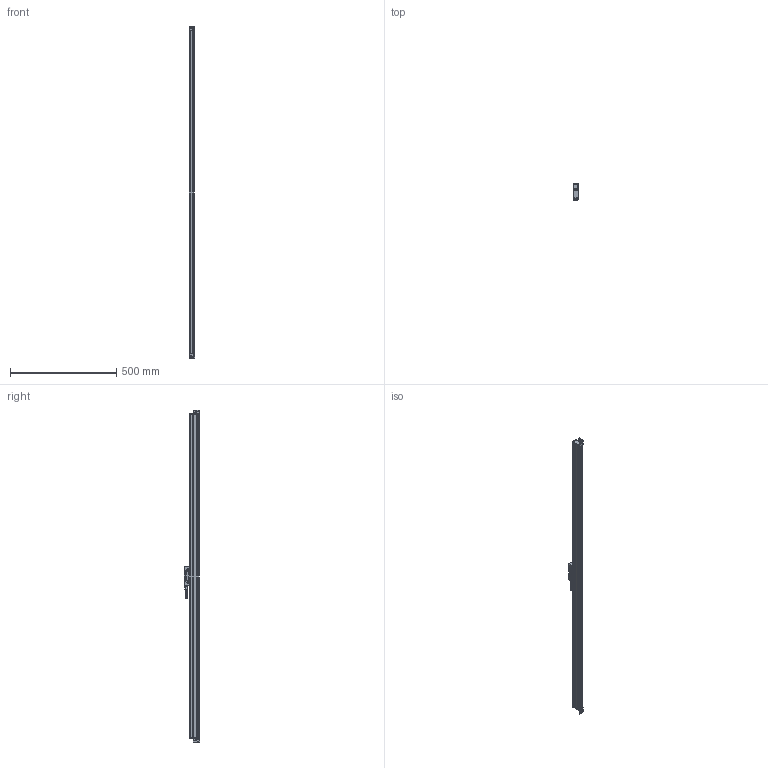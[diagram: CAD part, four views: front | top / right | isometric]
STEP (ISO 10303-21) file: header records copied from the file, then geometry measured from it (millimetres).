
FILE_DESCRIPTION (( 'STEP AP214' ), '1' );
FILE_NAME ('MLC310x1400.STEP', '2021-05-08T11:53:34', ( '' ), ( '' ), 'SwSTEP 2.0', 'SolidWorks 2014', '' );
FILE_SCHEMA (( 'AUTOMOTIVE_DESIGN' ));
Length unit declared in the file: millimetre
Products named in the file (1): MLC310x1400
Bounding box: 27 x 75.15 x 1564 mm (x, y, z)
Surface area: 268276.4 mm2 (no closed solid volume)
Topology: 0 solids, 23 shells, 360 faces, 1288 edges, 932 vertices
Faces by surface type: plane 141, cylinder 130, cone 67, bspline 20, torus 2
Entity records: 27183 total; most frequent: CARTESIAN_POINT 12548, DIRECTION 2201, ORIENTED_EDGE 1916, EDGE_CURVE 1286, VERTEX_POINT 932, AXIS2_PLACEMENT_3D 761, VECTOR 679, LINE 679
